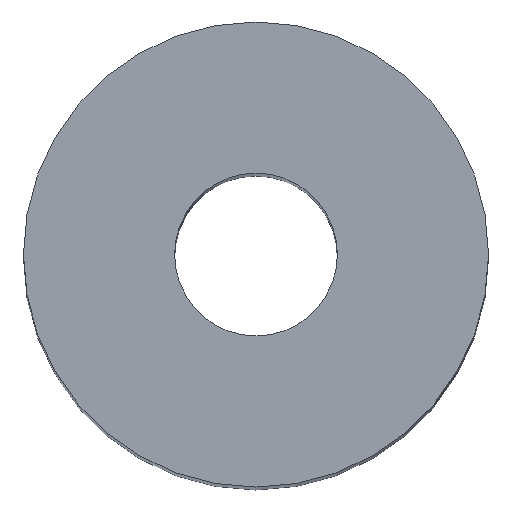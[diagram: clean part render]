
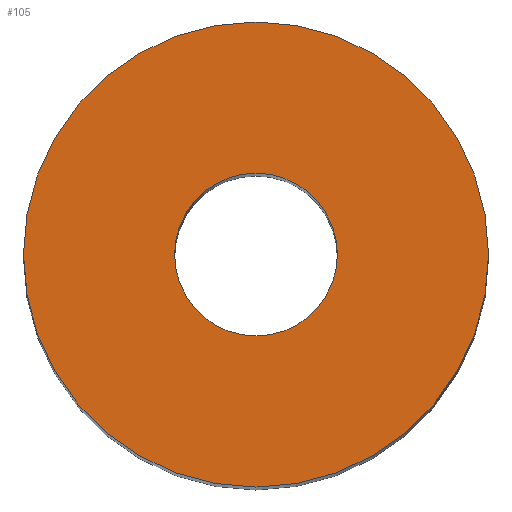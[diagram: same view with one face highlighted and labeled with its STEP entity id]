
A CAD part, top view. The second image highlights one B-rep face of the part: STEP entity #105.
In plain terms, the highlighted planar face has unit normal (0, 0, 1).
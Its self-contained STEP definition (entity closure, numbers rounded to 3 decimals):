
#21 = EDGE_CURVE('',#22,#22,#24,.T.);
#22 = VERTEX_POINT('',#23);
#23 = CARTESIAN_POINT('',(5.,0.,36.));
#24 = SURFACE_CURVE('',#25,(#30,#42),.PCURVE_S1.);
#25 = CIRCLE('',#26,5.);
#26 = AXIS2_PLACEMENT_3D('',#27,#28,#29);
#27 = CARTESIAN_POINT('',(0.,0.,36.));
#28 = DIRECTION('',(0.,0.,1.));
#29 = DIRECTION('',(1.,0.,-0.));
#30 = PCURVE('',#31,#36);
#31 = CYLINDRICAL_SURFACE('',#32,5.);
#32 = AXIS2_PLACEMENT_3D('',#33,#34,#35);
#33 = CARTESIAN_POINT('',(0.,0.,0.));
#34 = DIRECTION('',(0.,0.,1.));
#35 = DIRECTION('',(1.,0.,-0.));
#36 = DEFINITIONAL_REPRESENTATION('',(#37),#41);
#37 = LINE('',#38,#39);
#38 = CARTESIAN_POINT('',(0.,36.));
#39 = VECTOR('',#40,1.);
#40 = DIRECTION('',(1.,0.));
#41 = ( GEOMETRIC_REPRESENTATION_CONTEXT(2) 
PARAMETRIC_REPRESENTATION_CONTEXT() REPRESENTATION_CONTEXT('2D SPACE',''
  ) );
#42 = PCURVE('',#43,#48);
#43 = PLANE('',#44);
#44 = AXIS2_PLACEMENT_3D('',#45,#46,#47);
#45 = CARTESIAN_POINT('',(0.,0.,36.));
#46 = DIRECTION('',(0.,0.,1.));
#47 = DIRECTION('',(1.,0.,-0.));
#48 = DEFINITIONAL_REPRESENTATION('',(#49),#53);
#49 = CIRCLE('',#50,5.);
#50 = AXIS2_PLACEMENT_2D('',#51,#52);
#51 = CARTESIAN_POINT('',(0.,0.));
#52 = DIRECTION('',(1.,0.));
#53 = ( GEOMETRIC_REPRESENTATION_CONTEXT(2) 
PARAMETRIC_REPRESENTATION_CONTEXT() REPRESENTATION_CONTEXT('2D SPACE',''
  ) );
#105 = ADVANCED_FACE('',(#106,#109),#43,.T.);
#106 = FACE_BOUND('',#107,.T.);
#107 = EDGE_LOOP('',(#108));
#108 = ORIENTED_EDGE('',*,*,#21,.T.);
#109 = FACE_BOUND('',#110,.T.);
#110 = EDGE_LOOP('',(#111));
#111 = ORIENTED_EDGE('',*,*,#112,.F.);
#112 = EDGE_CURVE('',#113,#113,#115,.T.);
#113 = VERTEX_POINT('',#114);
#114 = CARTESIAN_POINT('',(1.75,0.,36.));
#115 = SURFACE_CURVE('',#116,(#121,#128),.PCURVE_S1.);
#116 = CIRCLE('',#117,1.75);
#117 = AXIS2_PLACEMENT_3D('',#118,#119,#120);
#118 = CARTESIAN_POINT('',(0.,0.,36.));
#119 = DIRECTION('',(0.,0.,1.));
#120 = DIRECTION('',(1.,0.,-0.));
#121 = PCURVE('',#43,#122);
#122 = DEFINITIONAL_REPRESENTATION('',(#123),#127);
#123 = CIRCLE('',#124,1.75);
#124 = AXIS2_PLACEMENT_2D('',#125,#126);
#125 = CARTESIAN_POINT('',(0.,0.));
#126 = DIRECTION('',(1.,0.));
#127 = ( GEOMETRIC_REPRESENTATION_CONTEXT(2) 
PARAMETRIC_REPRESENTATION_CONTEXT() REPRESENTATION_CONTEXT('2D SPACE',''
  ) );
#128 = PCURVE('',#129,#134);
#129 = CYLINDRICAL_SURFACE('',#130,1.75);
#130 = AXIS2_PLACEMENT_3D('',#131,#132,#133);
#131 = CARTESIAN_POINT('',(0.,0.,-1.));
#132 = DIRECTION('',(0.,0.,1.));
#133 = DIRECTION('',(1.,0.,-0.));
#134 = DEFINITIONAL_REPRESENTATION('',(#135),#139);
#135 = LINE('',#136,#137);
#136 = CARTESIAN_POINT('',(0.,37.));
#137 = VECTOR('',#138,1.);
#138 = DIRECTION('',(1.,0.));
#139 = ( GEOMETRIC_REPRESENTATION_CONTEXT(2) 
PARAMETRIC_REPRESENTATION_CONTEXT() REPRESENTATION_CONTEXT('2D SPACE',''
  ) );
